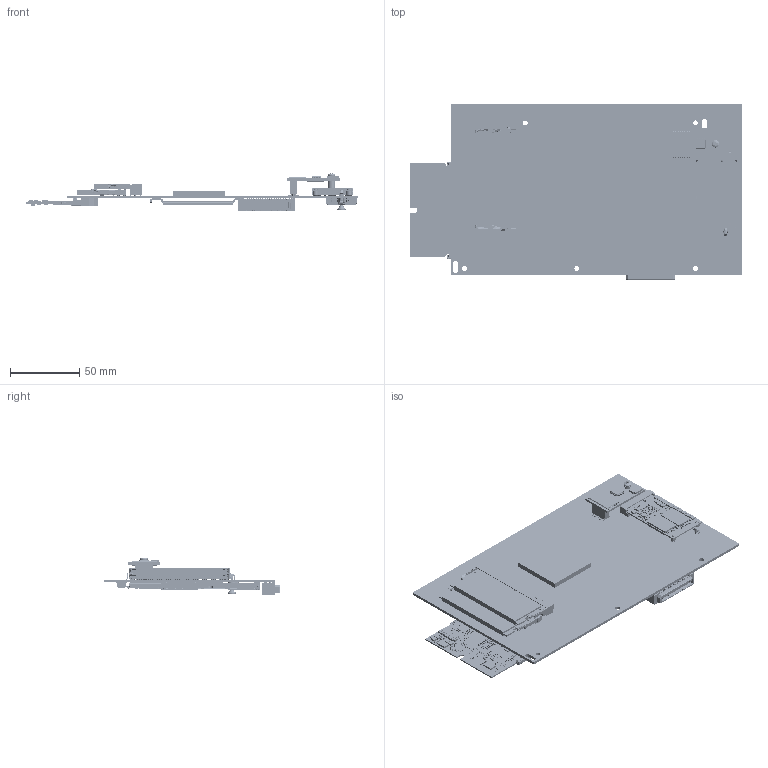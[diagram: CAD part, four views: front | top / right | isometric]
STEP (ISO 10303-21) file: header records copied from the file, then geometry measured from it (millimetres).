
FILE_DESCRIPTION((''),'2;1');
FILE_NAME('NEW-CPU-PCBA_BROADWELL-ASSY_ASM','2019-07-31T',('curtis_chen'),(''),'PRO/ENGINEER BY PARAMETRIC TECHNOLOGY CORPORATION, 2012480','PRO/ENGINEER BY PARAMETRIC TECHNOLOGY CORPORATION, 2012480','');
FILE_SCHEMA(('AUTOMOTIVE_DESIGN { 1 0 10303 214 1 1 1 1 }'));
Products named in the file (315): 125000000032A_ULCO2P4-3P1-GR_1_; 125000000034A_ULCO2P4-3P1-GR_ST_ASM; STANDOFF-M3X2_4MM_4_PRT_3; BKT-HEATSINK-BCH_2U_2_PRT_1; BRK_ASM; INSULATOR-1; INSULATOR-2; INSULATOR_ASM; 123400001009A-CPU-HEATSINK-BRK_ASM; PAD-14227460; 124300000042A-SMD-M2X3-14226810; 124300000042A-SMD-M2X3-14227760_ASM; PIN1-MARK-14220820; POINT-14220330; HOLE-14219950; PAD-3-14219500; PAD-_15; PAD_8; PAD-4-14217560; C-1775838-2-14214970; 119I00000008A_C-177583-14221120_ASM; MSATA-SSD_PRT; 124100011700A-M2_1_PRT; MSATA-SSD-ASSY_ASM_ASM; PAD-12714400; 124300000038A-SMD-M3-H-12713920; 124300000038A-SMD-M3-H-12714700_ASM; PAD-12709380; 118200000001A-12708480; 118200000213A-2X5PIN-12709680_ASM; PCB_TMH_PRT; TSOP48_TMH_1_PRT; U1_TMH_PRT; SW1_TMH_PRT; 10P_CONN_TMH_PRT; EUSB_TMH_ASSY_ASM_ASM; 124025-010-M3X6-2W_1_PRT; 114000000069A-EUSB_TMH_ASSY_STE_ASM; 0603_1MM-9_PRT; 0603_1MM-8_PRT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
Assembly tree (626 placements, depth 8):
  NEW-CPU-PCBA_BROADWELL-ASSY_ASM
    NEW-CPU-PCBA_BROADWELL_-ASSY_ASM
      125000000034A_ULCO2P4-3P1-GR_ST_ASM
        125000000032A_ULCO2P4-3P1-GR_1_
      123400001009A-CPU-HEATSINK-BRK_ASM
        BRK_ASM
          STANDOFF-M3X2_4MM_4_PRT_3  x4
          BKT-HEATSINK-BCH_2U_2_PRT_1
        INSULATOR_ASM
          INSULATOR-1
          INSULATOR-2  x2
      SHARE-PART_1_ASM_1_ASM
        MSATA-SSD-ASSY_ASM_ASM
          124300000042A-SMD-M2X3-14227760_ASM  x2
            PAD-14227460
            124300000042A-SMD-M2X3-14226810
          119I00000008A_C-177583-14221120_ASM
            PIN1-MARK-14220820
            POINT-14220330
            HOLE-14219950
            PAD-3-14219500
            PAD-_15  x18
            PAD_8  x8
            PAD-4-14217560
            C-1775838-2-14214970
          MSATA-SSD_PRT
          124100011700A-M2_1_PRT  x2
        114000000069A-EUSB_TMH_ASSY_STE_ASM
          124300000038A-SMD-M3-H-12714700_ASM
            PAD-12714400
            124300000038A-SMD-M3-H-12713920
          118200000213A-2X5PIN-12709680_ASM
            PAD-12709380
            118200000001A-12708480
          EUSB_TMH_ASSY_ASM_ASM
            PCB_TMH_PRT
            TSOP48_TMH_1_PRT  x2
            U1_TMH_PRT
            SW1_TMH_PRT
            10P_CONN_TMH_PRT
          124025-010-M3X6-2W_1_PRT
        M_2-SATA_ASM_ASM
          M_2-2280_ASM
            54-50-05096-02_20121129_001_1_A_ASM
              0603_1MM-9_PRT
              0603_1MM-8_PRT
              0603_1MM-10_PRT
              0603_1MM-11_PRT
              0603_1MM-13_PRT
              0603_1MM-14_PRT
              0603_1MM-12_PRT
              0603_1MM-6_PRT
              0603_1MM-5_PRT
              0603_1MM-7_PRT
              0603_1MM-3_PRT
              0603_1MM-4_PRT
              0201_RP-33_PRT
              0201_RP-32_PRT
              0201_RP-31_PRT
              0201_RP-30_PRT
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Bounding box: 239.76 x 126.52 x 26.8 mm (x, y, z)
Volume: 102364.4 mm3; surface area: 127194.5 mm2
Topology: 751 solids, 779 shells, 48861 faces, 140084 edges, 92750 vertices
Faces by surface type: plane 37251, cylinder 10573, extrusion 504, bspline 167, sphere 134, cone 122, torus 108, revolution 2
Entity records: 1989148 total; most frequent: CARTESIAN_POINT 314131, ORIENTED_EDGE 260328, DIRECTION 235144, PRESENTATION_STYLE_ASSIGNMENT 134033, EDGE_CURVE 130164, STYLED_ITEM 120408, CURVE_STYLE 119960, VECTOR 106908
